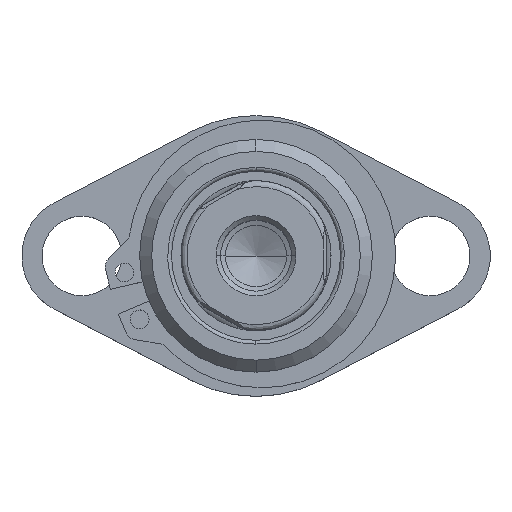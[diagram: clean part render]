
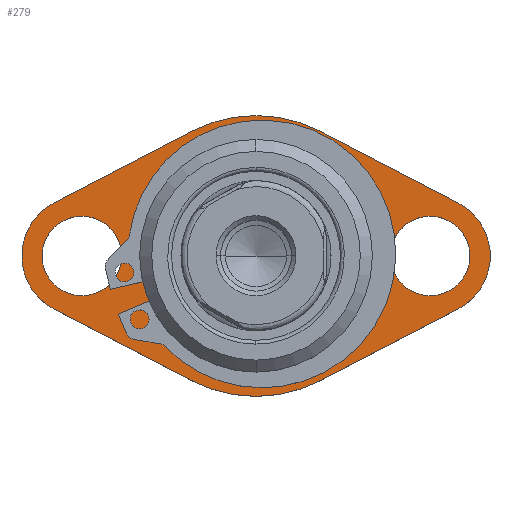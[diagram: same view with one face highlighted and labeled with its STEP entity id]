
A CAD part, top view. The second image highlights one B-rep face of the part: STEP entity #279.
In plain terms, the highlighted planar face has unit normal (0, 0, 1) as drawn and (0, 1, 0) by its records, which use the part's own axes.
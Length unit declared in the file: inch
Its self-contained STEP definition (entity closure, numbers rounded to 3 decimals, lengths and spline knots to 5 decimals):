
#107 = FACE_BOUND ( 'NONE', #6392, .T. ) ;
#172 = ORIENTED_EDGE ( 'NONE', *, *, #705, .T. ) ;
#204 = CARTESIAN_POINT ( 'NONE',  ( -1.34448, 0.25, 0.35492 ) ) ;
#279 = ADVANCED_FACE ( 'NONE', ( #2608, #854, #6391, #107 ), #2355, .T. ) ;
#282 = AXIS2_PLACEMENT_3D ( 'NONE', #4883, #3663, #5951 ) ;
#328 = CARTESIAN_POINT ( 'NONE',  ( 0.43123, 0.25, -0.82962 ) ) ;
#422 = ORIENTED_EDGE ( 'NONE', *, *, #2631, .T. ) ;
#463 = AXIS2_PLACEMENT_3D ( 'NONE', #2221, #3452, #6371 ) ;
#479 = EDGE_CURVE ( 'NONE', #2311, #5390, #4449, .T. ) ;
#613 = DIRECTION ( 'NONE',  ( 0., -1., 0. ) ) ;
#682 = ORIENTED_EDGE ( 'NONE', *, *, #5797, .T. ) ;
#705 = EDGE_CURVE ( 'NONE', #4403, #774, #7577, .T. ) ;
#712 = EDGE_CURVE ( 'NONE', #4762, #3400, #719, .T. ) ;
#719 = CIRCLE ( 'NONE', #3627, 0.935 ) ;
#731 = EDGE_LOOP ( 'NONE', ( #6079, #3384 ) ) ;
#741 = CIRCLE ( 'NONE', #2981, 0.4 ) ;
#774 = VERTEX_POINT ( 'NONE', #5614 ) ;
#851 = DIRECTION ( 'NONE',  ( 0., 0., -1. ) ) ;
#853 = VERTEX_POINT ( 'NONE', #2863 ) ;
#854 = FACE_OUTER_BOUND ( 'NONE', #1872, .T. ) ;
#919 = DIRECTION ( 'NONE',  ( 0., 0., -1. ) ) ;
#985 = DIRECTION ( 'NONE',  ( 0., 0., -1. ) ) ;
#1019 = DIRECTION ( 'NONE',  ( 0., -1., 0. ) ) ;
#1061 = CARTESIAN_POINT ( 'NONE',  ( 0., 0.25, -0.775 ) ) ;
#1081 = CARTESIAN_POINT ( 'NONE',  ( 0., 0.25, -0.935 ) ) ;
#1122 = CIRCLE ( 'NONE', #4673, 0.935 ) ;
#1243 = ORIENTED_EDGE ( 'NONE', *, *, #5423, .F. ) ;
#1257 = DIRECTION ( 'NONE',  ( 0., -1., 0. ) ) ;
#1604 = ORIENTED_EDGE ( 'NONE', *, *, #4985, .T. ) ;
#1756 = VECTOR ( 'NONE', #2554, 39.37008 ) ;
#1872 = EDGE_LOOP ( 'NONE', ( #2957, #3801, #3234, #3948, #5429, #172, #6053, #1243, #2817 ) ) ;
#1914 = DIRECTION ( 'NONE',  ( 0., 0., -1. ) ) ;
#1965 = EDGE_CURVE ( 'NONE', #5750, #3184, #4342, .T. ) ;
#1991 = DIRECTION ( 'NONE',  ( -0.887, 0., -0.461 ) ) ;
#2116 = EDGE_CURVE ( 'NONE', #5546, #774, #1122, .T. ) ;
#2118 = VERTEX_POINT ( 'NONE', #5296 ) ;
#2221 = CARTESIAN_POINT ( 'NONE',  ( -1.16, 0.25, 0. ) ) ;
#2259 = CARTESIAN_POINT ( 'NONE',  ( 1.34448, 0.25, 0.35492 ) ) ;
#2269 = AXIS2_PLACEMENT_3D ( 'NONE', #6995, #5171, #3371 ) ;
#2311 = VERTEX_POINT ( 'NONE', #3566 ) ;
#2355 = PLANE ( 'NONE',  #282 ) ;
#2403 = LINE ( 'NONE', #3722, #1756 ) ;
#2420 = CIRCLE ( 'NONE', #4658, 0.265 ) ;
#2492 = CARTESIAN_POINT ( 'NONE',  ( 1.16, 0.25, 0. ) ) ;
#2514 = CIRCLE ( 'NONE', #7375, 0.775 ) ;
#2527 = DIRECTION ( 'NONE',  ( 0., -1., 0. ) ) ;
#2554 = DIRECTION ( 'NONE',  ( -0.887, 0., 0.461 ) ) ;
#2608 = FACE_BOUND ( 'NONE', #731, .T. ) ;
#2631 = EDGE_CURVE ( 'NONE', #7550, #853, #4794, .T. ) ;
#2715 = VERTEX_POINT ( 'NONE', #204 ) ;
#2817 = ORIENTED_EDGE ( 'NONE', *, *, #7609, .T. ) ;
#2863 = CARTESIAN_POINT ( 'NONE',  ( 0., 0.25, 0.775 ) ) ;
#2957 = ORIENTED_EDGE ( 'NONE', *, *, #4906, .F. ) ;
#2981 = AXIS2_PLACEMENT_3D ( 'NONE', #2492, #2527, #6058 ) ;
#3022 = CARTESIAN_POINT ( 'NONE',  ( -0.43123, 0.25, 0.82962 ) ) ;
#3128 = AXIS2_PLACEMENT_3D ( 'NONE', #4524, #1019, #5196 ) ;
#3150 = DIRECTION ( 'NONE',  ( 0., -1., 0. ) ) ;
#3184 = VERTEX_POINT ( 'NONE', #6362 ) ;
#3213 = CARTESIAN_POINT ( 'NONE',  ( 1.16, 0.25, 0.265 ) ) ;
#3234 = ORIENTED_EDGE ( 'NONE', *, *, #712, .F. ) ;
#3247 = DIRECTION ( 'NONE',  ( 0., -1., 0. ) ) ;
#3323 = VERTEX_POINT ( 'NONE', #5936 ) ;
#3332 = DIRECTION ( 'NONE',  ( 0.887, 0., 0.461 ) ) ;
#3371 = DIRECTION ( 'NONE',  ( 0., 0., -1. ) ) ;
#3384 = ORIENTED_EDGE ( 'NONE', *, *, #1965, .T. ) ;
#3400 = VERTEX_POINT ( 'NONE', #3022 ) ;
#3444 = EDGE_CURVE ( 'NONE', #4403, #6878, #741, .T. ) ;
#3445 = CARTESIAN_POINT ( 'NONE',  ( 1.34448, 0.25, -0.35492 ) ) ;
#3452 = DIRECTION ( 'NONE',  ( 0., -1., 0. ) ) ;
#3566 = CARTESIAN_POINT ( 'NONE',  ( 1.16, 0.25, -0.265 ) ) ;
#3577 = VECTOR ( 'NONE', #1991, 39.37008 ) ;
#3627 = AXIS2_PLACEMENT_3D ( 'NONE', #4442, #3150, #919 ) ;
#3647 = AXIS2_PLACEMENT_3D ( 'NONE', #5286, #613, #5947 ) ;
#3663 = DIRECTION ( 'NONE',  ( 0., 1., 0. ) ) ;
#3686 = DIRECTION ( 'NONE',  ( 0., 0., -1. ) ) ;
#3712 = CARTESIAN_POINT ( 'NONE',  ( 0., 0.25, 0. ) ) ;
#3722 = CARTESIAN_POINT ( 'NONE',  ( -1.34448, 0.25, -0.35492 ) ) ;
#3801 = ORIENTED_EDGE ( 'NONE', *, *, #7044, .T. ) ;
#3906 = VECTOR ( 'NONE', #4503, 39.37008 ) ;
#3948 = ORIENTED_EDGE ( 'NONE', *, *, #4809, .T. ) ;
#4033 = EDGE_CURVE ( 'NONE', #3184, #5750, #6744, .T. ) ;
#4125 = CARTESIAN_POINT ( 'NONE',  ( 0., 0.25, 0. ) ) ;
#4149 = LINE ( 'NONE', #7473, #5106 ) ;
#4303 = CARTESIAN_POINT ( 'NONE',  ( 0., 0.25, 0. ) ) ;
#4320 = EDGE_LOOP ( 'NONE', ( #4350, #682 ) ) ;
#4325 = DIRECTION ( 'NONE',  ( 0., -1., 0. ) ) ;
#4342 = CIRCLE ( 'NONE', #463, 0.265 ) ;
#4350 = ORIENTED_EDGE ( 'NONE', *, *, #479, .T. ) ;
#4403 = VERTEX_POINT ( 'NONE', #3445 ) ;
#4442 = CARTESIAN_POINT ( 'NONE',  ( 0., 0.25, 0. ) ) ;
#4449 = CIRCLE ( 'NONE', #2269, 0.265 ) ;
#4503 = DIRECTION ( 'NONE',  ( 0.887, 0., -0.461 ) ) ;
#4524 = CARTESIAN_POINT ( 'NONE',  ( -1.16, 0.25, 0. ) ) ;
#4593 = AXIS2_PLACEMENT_3D ( 'NONE', #5580, #3247, #985 ) ;
#4650 = CIRCLE ( 'NONE', #3647, 0.4 ) ;
#4658 = AXIS2_PLACEMENT_3D ( 'NONE', #7209, #1257, #1914 ) ;
#4673 = AXIS2_PLACEMENT_3D ( 'NONE', #4125, #5318, #7098 ) ;
#4762 = VERTEX_POINT ( 'NONE', #5072 ) ;
#4794 = CIRCLE ( 'NONE', #7405, 0.775 ) ;
#4809 = EDGE_CURVE ( 'NONE', #4762, #6878, #7225, .T. ) ;
#4883 = CARTESIAN_POINT ( 'NONE',  ( 0., 0.25, 0. ) ) ;
#4906 = EDGE_CURVE ( 'NONE', #2715, #2118, #4650, .T. ) ;
#4985 = EDGE_CURVE ( 'NONE', #853, #7550, #2514, .T. ) ;
#5072 = CARTESIAN_POINT ( 'NONE',  ( 0.43123, 0.25, 0.82962 ) ) ;
#5106 = VECTOR ( 'NONE', #3332, 39.37008 ) ;
#5171 = DIRECTION ( 'NONE',  ( 0., -1., 0. ) ) ;
#5196 = DIRECTION ( 'NONE',  ( 0., 0., -1. ) ) ;
#5286 = CARTESIAN_POINT ( 'NONE',  ( -1.16, 0.25, 0. ) ) ;
#5296 = CARTESIAN_POINT ( 'NONE',  ( -1.34448, 0.25, -0.35492 ) ) ;
#5318 = DIRECTION ( 'NONE',  ( 0., -1., 0. ) ) ;
#5390 = VERTEX_POINT ( 'NONE', #3213 ) ;
#5423 = EDGE_CURVE ( 'NONE', #3323, #5546, #6312, .T. ) ;
#5429 = ORIENTED_EDGE ( 'NONE', *, *, #3444, .F. ) ;
#5482 = DIRECTION ( 'NONE',  ( 0., -1., 0. ) ) ;
#5546 = VERTEX_POINT ( 'NONE', #1081 ) ;
#5580 = CARTESIAN_POINT ( 'NONE',  ( 0., 0.25, 0. ) ) ;
#5614 = CARTESIAN_POINT ( 'NONE',  ( 0.43123, 0.25, -0.82962 ) ) ;
#5750 = VERTEX_POINT ( 'NONE', #6422 ) ;
#5797 = EDGE_CURVE ( 'NONE', #5390, #2311, #2420, .T. ) ;
#5936 = CARTESIAN_POINT ( 'NONE',  ( -0.43123, 0.25, -0.82962 ) ) ;
#5947 = DIRECTION ( 'NONE',  ( 0., 0., -1. ) ) ;
#5951 = DIRECTION ( 'NONE',  ( 0., 0., 1. ) ) ;
#6053 = ORIENTED_EDGE ( 'NONE', *, *, #2116, .F. ) ;
#6058 = DIRECTION ( 'NONE',  ( 0., 0., -1. ) ) ;
#6079 = ORIENTED_EDGE ( 'NONE', *, *, #4033, .T. ) ;
#6312 = CIRCLE ( 'NONE', #4593, 0.935 ) ;
#6362 = CARTESIAN_POINT ( 'NONE',  ( -1.16, 0.25, -0.265 ) ) ;
#6371 = DIRECTION ( 'NONE',  ( 0., 0., -1. ) ) ;
#6391 = FACE_BOUND ( 'NONE', #4320, .T. ) ;
#6392 = EDGE_LOOP ( 'NONE', ( #422, #1604 ) ) ;
#6422 = CARTESIAN_POINT ( 'NONE',  ( -1.16, 0.25, 0.265 ) ) ;
#6744 = CIRCLE ( 'NONE', #3128, 0.265 ) ;
#6878 = VERTEX_POINT ( 'NONE', #2259 ) ;
#6995 = CARTESIAN_POINT ( 'NONE',  ( 1.16, 0.25, 0. ) ) ;
#7044 = EDGE_CURVE ( 'NONE', #2715, #3400, #4149, .T. ) ;
#7098 = DIRECTION ( 'NONE',  ( 0., 0., -1. ) ) ;
#7209 = CARTESIAN_POINT ( 'NONE',  ( 1.16, 0.25, 0. ) ) ;
#7225 = LINE ( 'NONE', #7460, #3906 ) ;
#7375 = AXIS2_PLACEMENT_3D ( 'NONE', #4303, #5482, #3686 ) ;
#7405 = AXIS2_PLACEMENT_3D ( 'NONE', #3712, #4325, #851 ) ;
#7460 = CARTESIAN_POINT ( 'NONE',  ( 0.43123, 0.25, 0.82962 ) ) ;
#7473 = CARTESIAN_POINT ( 'NONE',  ( -1.34448, 0.25, 0.35492 ) ) ;
#7550 = VERTEX_POINT ( 'NONE', #1061 ) ;
#7577 = LINE ( 'NONE', #328, #3577 ) ;
#7609 = EDGE_CURVE ( 'NONE', #3323, #2118, #2403, .T. ) ;
